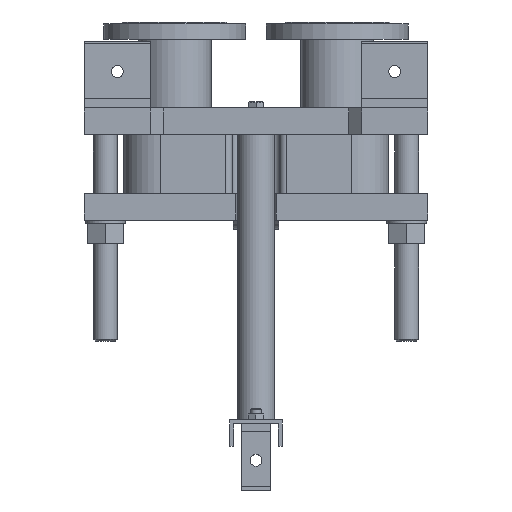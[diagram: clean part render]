
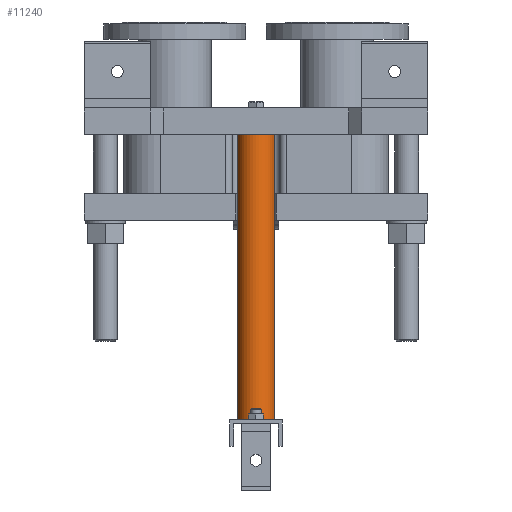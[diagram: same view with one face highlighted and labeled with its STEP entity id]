
A CAD part, front view. The second image highlights one B-rep face of the part: STEP entity #11240.
In plain terms, the highlighted cylindrical face has radius 28.5 mm (diameter 57 mm), a full revolution.
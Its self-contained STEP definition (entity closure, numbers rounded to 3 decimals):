
#781=LINE('',#22043,#1754);
#1754=VECTOR('',#14569,28.5);
#2333=CYLINDRICAL_SURFACE('',#12263,28.5);
#2995=FACE_OUTER_BOUND('',#3777,.T.);
#3777=EDGE_LOOP('',(#9013,#9014,#9015,#9016));
#4462=CIRCLE('',#12264,28.5);
#4463=CIRCLE('',#12265,28.5);
#5286=VERTEX_POINT('',#22040);
#5287=VERTEX_POINT('',#22042);
#6596=EDGE_CURVE('',#5286,#5286,#4462,.T.);
#6597=EDGE_CURVE('',#5286,#5287,#781,.T.);
#6598=EDGE_CURVE('',#5287,#5287,#4463,.T.);
#9013=ORIENTED_EDGE('',*,*,#6596,.F.);
#9014=ORIENTED_EDGE('',*,*,#6597,.T.);
#9015=ORIENTED_EDGE('',*,*,#6598,.T.);
#9016=ORIENTED_EDGE('',*,*,#6597,.F.);
#11240=ADVANCED_FACE('',(#2995),#2333,.T.);
#12263=AXIS2_PLACEMENT_3D('',#22039,#14565,#14566);
#12264=AXIS2_PLACEMENT_3D('',#22041,#14567,#14568);
#12265=AXIS2_PLACEMENT_3D('',#22044,#14570,#14571);
#14565=DIRECTION('center_axis',(0.,0.,
-1.));
#14566=DIRECTION('ref_axis',(-1.,0.,0.));
#14567=DIRECTION('center_axis',(0.,0.,
-1.));
#14568=DIRECTION('ref_axis',(-1.,0.,0.));
#14569=DIRECTION('',(0.,0.,1.));
#14570=DIRECTION('center_axis',(0.,0.,
-1.));
#14571=DIRECTION('ref_axis',(-1.,0.,0.));
#22039=CARTESIAN_POINT('Origin',(0.,215.,0.));
#22040=CARTESIAN_POINT('',(28.5,215.,-432.));
#22041=CARTESIAN_POINT('Origin',(0.,215.,-432.));
#22042=CARTESIAN_POINT('',(28.5,215.,0.));
#22043=CARTESIAN_POINT('',(28.5,215.,0.));
#22044=CARTESIAN_POINT('Origin',(0.,215.,0.));
